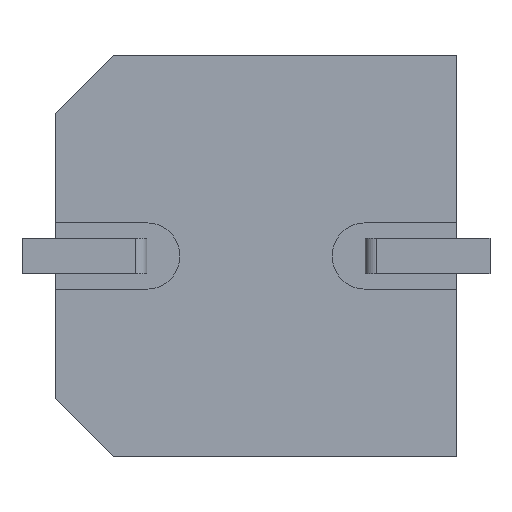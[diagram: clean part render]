
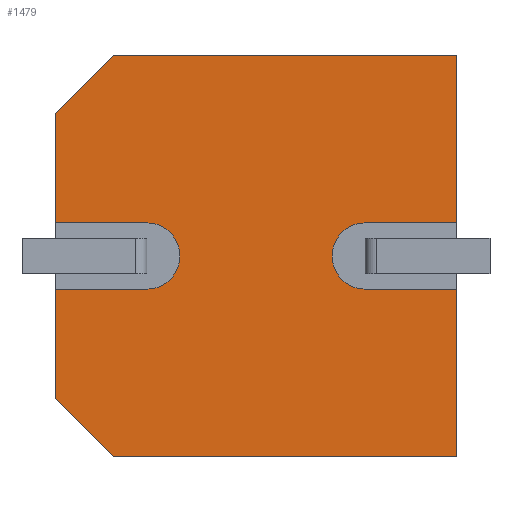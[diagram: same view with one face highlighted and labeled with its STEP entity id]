
A CAD part, front view. The second image highlights one B-rep face of the part: STEP entity #1479.
In plain terms, the highlighted planar face has unit normal (0, -1, 0).
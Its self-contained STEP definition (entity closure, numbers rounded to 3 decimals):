
#22 = VECTOR ( 'NONE', #82, 1000. ) ;
#25 = CARTESIAN_POINT ( 'NONE',  ( -2.8, 0.1, -0.85 ) ) ;
#26 = CARTESIAN_POINT ( 'NONE',  ( -5.15, 0.1, 3.65 ) ) ;
#39 = CARTESIAN_POINT ( 'NONE',  ( -5.15, 0.1, -0.85 ) ) ;
#78 = LINE ( 'NONE', #1116, #621 ) ;
#82 = DIRECTION ( 'NONE',  ( 0., 0., 1. ) ) ;
#90 = DIRECTION ( 'NONE',  ( 0., 0., 1. ) ) ;
#92 = VERTEX_POINT ( 'NONE', #968 ) ;
#108 = ORIENTED_EDGE ( 'NONE', *, *, #1243, .T. ) ;
#118 = CARTESIAN_POINT ( 'NONE',  ( 0., 0.1, 0. ) ) ;
#124 = CARTESIAN_POINT ( 'NONE',  ( -3.65, 0.1, 5.15 ) ) ;
#128 = EDGE_CURVE ( 'NONE', #1247, #840, #994, .T. ) ;
#137 = LINE ( 'NONE', #666, #333 ) ;
#140 = CIRCLE ( 'NONE', #1473, 0.85 ) ;
#147 = DIRECTION ( 'NONE',  ( 1., 0., 0. ) ) ;
#185 = VERTEX_POINT ( 'NONE', #39 ) ;
#190 = ORIENTED_EDGE ( 'NONE', *, *, #227, .T. ) ;
#202 = CARTESIAN_POINT ( 'NONE',  ( 5.15, 0.1, 5.15 ) ) ;
#207 = CARTESIAN_POINT ( 'NONE',  ( 5.15, 0.1, 5.15 ) ) ;
#227 = EDGE_CURVE ( 'NONE', #738, #1253, #1133, .T. ) ;
#247 = VECTOR ( 'NONE', #147, 1000. ) ;
#248 = ORIENTED_EDGE ( 'NONE', *, *, #803, .F. ) ;
#285 = PLANE ( 'NONE',  #1019 ) ;
#326 = VERTEX_POINT ( 'NONE', #1700 ) ;
#327 = ORIENTED_EDGE ( 'NONE', *, *, #1041, .T. ) ;
#330 = VECTOR ( 'NONE', #1010, 1000. ) ;
#333 = VECTOR ( 'NONE', #682, 1000. ) ;
#341 = LINE ( 'NONE', #124, #330 ) ;
#353 = EDGE_CURVE ( 'NONE', #738, #1247, #78, .T. ) ;
#397 = DIRECTION ( 'NONE',  ( 0., 0., -1. ) ) ;
#414 = DIRECTION ( 'NONE',  ( 0., -1., 0. ) ) ;
#425 = CARTESIAN_POINT ( 'NONE',  ( -2.8, 0.1, 0.85 ) ) ;
#449 = EDGE_CURVE ( 'NONE', #1253, #326, #341, .T. ) ;
#451 = VECTOR ( 'NONE', #1077, 1000. ) ;
#515 = EDGE_CURVE ( 'NONE', #1130, #92, #793, .T. ) ;
#516 = CARTESIAN_POINT ( 'NONE',  ( -5.15, 0.1, -3.65 ) ) ;
#547 = ORIENTED_EDGE ( 'NONE', *, *, #1012, .F. ) ;
#559 = CARTESIAN_POINT ( 'NONE',  ( 2.8, 0.1, 0. ) ) ;
#566 = EDGE_CURVE ( 'NONE', #1102, #711, #137, .T. ) ;
#597 = CARTESIAN_POINT ( 'NONE',  ( 2.8, 0.1, -0.85 ) ) ;
#603 = ORIENTED_EDGE ( 'NONE', *, *, #566, .F. ) ;
#604 = EDGE_CURVE ( 'NONE', #185, #1130, #932, .T. ) ;
#606 = CARTESIAN_POINT ( 'NONE',  ( -5.15, 0.1, 3.65 ) ) ;
#621 = VECTOR ( 'NONE', #1646, 1000. ) ;
#647 = VECTOR ( 'NONE', #948, 1000. ) ;
#650 = CARTESIAN_POINT ( 'NONE',  ( -5.15, 0.1, 3.65 ) ) ;
#663 = LINE ( 'NONE', #26, #1278 ) ;
#666 = CARTESIAN_POINT ( 'NONE',  ( -5.15, 0.1, 0.85 ) ) ;
#678 = CARTESIAN_POINT ( 'NONE',  ( 5.15, 0.1, -0.85 ) ) ;
#679 = CARTESIAN_POINT ( 'NONE',  ( 5.15, 0.1, 5.15 ) ) ;
#682 = DIRECTION ( 'NONE',  ( -1., 0., 0. ) ) ;
#688 = CARTESIAN_POINT ( 'NONE',  ( -5.15, 0.1, -3.65 ) ) ;
#711 = VERTEX_POINT ( 'NONE', #1049 ) ;
#719 = ORIENTED_EDGE ( 'NONE', *, *, #449, .T. ) ;
#738 = VERTEX_POINT ( 'NONE', #1397 ) ;
#781 = DIRECTION ( 'NONE',  ( 1., 0., 0. ) ) ;
#793 = LINE ( 'NONE', #516, #909 ) ;
#796 = LINE ( 'NONE', #907, #247 ) ;
#797 = EDGE_CURVE ( 'NONE', #326, #965, #663, .T. ) ;
#802 = LINE ( 'NONE', #678, #1305 ) ;
#803 = EDGE_CURVE ( 'NONE', #185, #1053, #1067, .T. ) ;
#824 = CARTESIAN_POINT ( 'NONE',  ( 2.8, 0.1, 0.85 ) ) ;
#840 = VERTEX_POINT ( 'NONE', #597 ) ;
#877 = VERTEX_POINT ( 'NONE', #1120 ) ;
#907 = CARTESIAN_POINT ( 'NONE',  ( -3.65, 0.1, -5.15 ) ) ;
#909 = VECTOR ( 'NONE', #1024, 1000. ) ;
#928 = AXIS2_PLACEMENT_3D ( 'NONE', #559, #1196, #1064 ) ;
#932 = LINE ( 'NONE', #650, #1480 ) ;
#934 = EDGE_CURVE ( 'NONE', #1053, #1102, #140, .T. ) ;
#948 = DIRECTION ( 'NONE',  ( 0., 0., -1. ) ) ;
#965 = VERTEX_POINT ( 'NONE', #606 ) ;
#968 = CARTESIAN_POINT ( 'NONE',  ( -3.65, 0.1, -5.15 ) ) ;
#979 = EDGE_CURVE ( 'NONE', #1523, #877, #987, .T. ) ;
#987 = LINE ( 'NONE', #202, #22 ) ;
#994 = CIRCLE ( 'NONE', #928, 0.85 ) ;
#1010 = DIRECTION ( 'NONE',  ( -1., 0., 0. ) ) ;
#1012 = EDGE_CURVE ( 'NONE', #840, #877, #802, .T. ) ;
#1019 = AXIS2_PLACEMENT_3D ( 'NONE', #118, #414, #397 ) ;
#1024 = DIRECTION ( 'NONE',  ( 0.707, 0., -0.707 ) ) ;
#1030 = ORIENTED_EDGE ( 'NONE', *, *, #515, .T. ) ;
#1041 = EDGE_CURVE ( 'NONE', #92, #1523, #796, .T. ) ;
#1049 = CARTESIAN_POINT ( 'NONE',  ( -5.15, 0.1, 0.85 ) ) ;
#1051 = FACE_OUTER_BOUND ( 'NONE', #1390, .T. ) ;
#1053 = VERTEX_POINT ( 'NONE', #25 ) ;
#1064 = DIRECTION ( 'NONE',  ( 0., 0., 1. ) ) ;
#1067 = LINE ( 'NONE', #1191, #451 ) ;
#1077 = DIRECTION ( 'NONE',  ( 1., 0., 0. ) ) ;
#1100 = VECTOR ( 'NONE', #90, 1000. ) ;
#1102 = VERTEX_POINT ( 'NONE', #425 ) ;
#1116 = CARTESIAN_POINT ( 'NONE',  ( 5.15, 0.1, 0.85 ) ) ;
#1120 = CARTESIAN_POINT ( 'NONE',  ( 5.15, 0.1, -0.85 ) ) ;
#1130 = VERTEX_POINT ( 'NONE', #688 ) ;
#1133 = LINE ( 'NONE', #207, #1100 ) ;
#1137 = ORIENTED_EDGE ( 'NONE', *, *, #128, .F. ) ;
#1139 = DIRECTION ( 'NONE',  ( 0., 0., -1. ) ) ;
#1191 = CARTESIAN_POINT ( 'NONE',  ( -5.15, 0.1, -0.85 ) ) ;
#1196 = DIRECTION ( 'NONE',  ( 0., -1., 0. ) ) ;
#1201 = ORIENTED_EDGE ( 'NONE', *, *, #353, .F. ) ;
#1219 = CARTESIAN_POINT ( 'NONE',  ( 5.15, 0.1, -5.15 ) ) ;
#1241 = ORIENTED_EDGE ( 'NONE', *, *, #934, .F. ) ;
#1243 = EDGE_CURVE ( 'NONE', #965, #711, #1596, .T. ) ;
#1247 = VERTEX_POINT ( 'NONE', #824 ) ;
#1253 = VERTEX_POINT ( 'NONE', #679 ) ;
#1278 = VECTOR ( 'NONE', #1615, 1000. ) ;
#1305 = VECTOR ( 'NONE', #781, 1000. ) ;
#1353 = CARTESIAN_POINT ( 'NONE',  ( -5.15, 0.1, 3.65 ) ) ;
#1388 = DIRECTION ( 'NONE',  ( 0., 0., -1. ) ) ;
#1390 = EDGE_LOOP ( 'NONE', ( #603, #1241, #248, #1430, #1030, #327, #1634, #547, #1137, #1201, #190, #719, #1419, #108 ) ) ;
#1396 = CARTESIAN_POINT ( 'NONE',  ( -2.8, 0.1, 0. ) ) ;
#1397 = CARTESIAN_POINT ( 'NONE',  ( 5.15, 0.1, 0.85 ) ) ;
#1419 = ORIENTED_EDGE ( 'NONE', *, *, #797, .T. ) ;
#1430 = ORIENTED_EDGE ( 'NONE', *, *, #604, .T. ) ;
#1473 = AXIS2_PLACEMENT_3D ( 'NONE', #1396, #1498, #1388 ) ;
#1479 = ADVANCED_FACE ( 'NONE', ( #1051 ), #285, .T. ) ;
#1480 = VECTOR ( 'NONE', #1139, 1000. ) ;
#1498 = DIRECTION ( 'NONE',  ( 0., -1., 0. ) ) ;
#1523 = VERTEX_POINT ( 'NONE', #1219 ) ;
#1596 = LINE ( 'NONE', #1353, #647 ) ;
#1615 = DIRECTION ( 'NONE',  ( -0.707, 0., -0.707 ) ) ;
#1634 = ORIENTED_EDGE ( 'NONE', *, *, #979, .T. ) ;
#1646 = DIRECTION ( 'NONE',  ( -1., 0., 0. ) ) ;
#1700 = CARTESIAN_POINT ( 'NONE',  ( -3.65, 0.1, 5.15 ) ) ;
